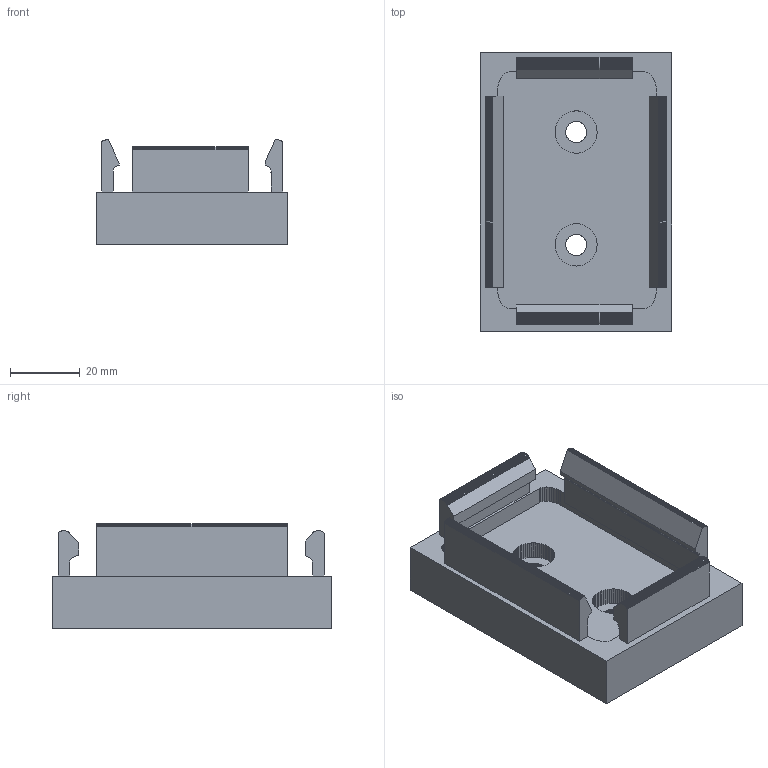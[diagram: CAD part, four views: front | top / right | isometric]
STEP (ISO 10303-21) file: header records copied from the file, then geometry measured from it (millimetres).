
FILE_DESCRIPTION(/* description */ (''),/* implementation_level */ '2;1');
FILE_NAME(/* name */ 'C:/Users/schwa/OneDrive - LED-MARTIN GmbH/eCommerce/Produktdetails/3D_Daten/Nightstick/Halterung_1_Leo_Steinhauser v2.step',/* time_stamp */ '2022-06-09T13:35:01+02:00',/* author */ (''),/* organization */ (''),/* preprocessor_version */ 'ST-DEVELOPER v19',/* originating_system */ 'Autodesk Translation Framework v11.7.0.108',/* authorisation */ '');
FILE_SCHEMA (('AUTOMOTIVE_DESIGN { 1 0 10303 214 3 1 1 }'));
Length unit declared in the file: millimetre
Products named in the file (1): Halterung_1_Leo_Steinhauser
Bounding box: 54.92 x 80 x 30 mm (x, y, z)
Volume: 58643.3 mm3; surface area: 19976.2 mm2
Topology: 1 solids, 1 shells, 461 faces, 1359 edges, 906 vertices
Faces by surface type: plane 461
Entity records: 15074 total; most frequent: CARTESIAN_POINT 2727, ORIENTED_EDGE 2718, DIRECTION 2283, LINE 1359, VECTOR 1359, EDGE_CURVE 1359, VERTEX_POINT 906, EDGE_LOOP 471
